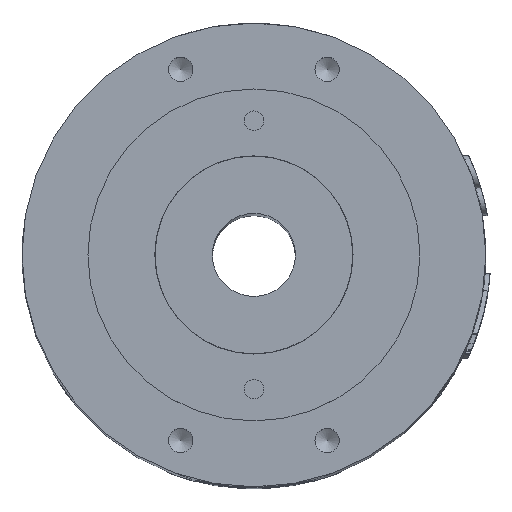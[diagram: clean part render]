
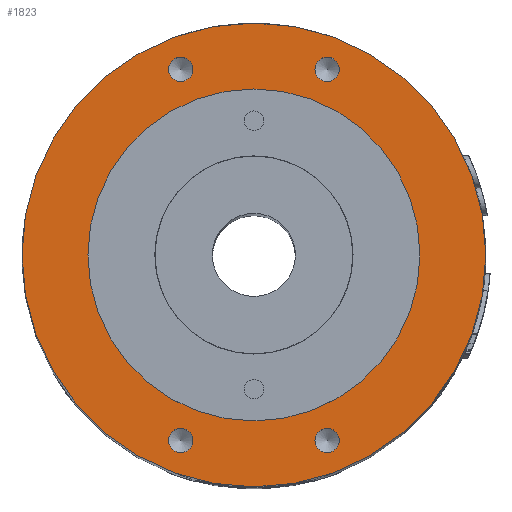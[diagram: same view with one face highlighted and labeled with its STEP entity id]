
A CAD part, top view. The second image highlights one B-rep face of the part: STEP entity #1823.
In plain terms, the highlighted planar face has unit normal (0, 0, 1).
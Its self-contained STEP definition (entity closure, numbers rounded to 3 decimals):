
#266=FACE_BOUND('',#3285,.T.);
#267=FACE_BOUND('',#3286,.T.);
#268=FACE_BOUND('',#3287,.T.);
#269=FACE_BOUND('',#3288,.T.);
#270=FACE_BOUND('',#3289,.T.);
#271=FACE_BOUND('',#3290,.T.);
#669=CIRCLE('',#9442,47.5);
#691=CIRCLE('',#9475,34.);
#693=CIRCLE('',#9478,2.5);
#694=CIRCLE('',#9479,2.5);
#695=CIRCLE('',#9480,2.5);
#696=CIRCLE('',#9481,2.5);
#1177=PLANE('',#9482);
#1823=ADVANCED_FACE('',(#266,#267,#268,#269,#270,#271),#1177,.T.);
#3285=EDGE_LOOP('',(#5107));
#3286=EDGE_LOOP('',(#5108));
#3287=EDGE_LOOP('',(#5109));
#3288=EDGE_LOOP('',(#5110));
#3289=EDGE_LOOP('',(#5111));
#3290=EDGE_LOOP('',(#5112));
#5107=ORIENTED_EDGE('',*,*,#8003,.T.);
#5108=ORIENTED_EDGE('',*,*,#8004,.T.);
#5109=ORIENTED_EDGE('',*,*,#8005,.T.);
#5110=ORIENTED_EDGE('',*,*,#8006,.T.);
#5111=ORIENTED_EDGE('',*,*,#8001,.T.);
#5112=ORIENTED_EDGE('',*,*,#7959,.F.);
#6823=VERTEX_POINT('',#26341);
#6865=VERTEX_POINT('',#26436);
#6867=VERTEX_POINT('',#26441);
#6868=VERTEX_POINT('',#26443);
#6869=VERTEX_POINT('',#26445);
#6870=VERTEX_POINT('',#26447);
#7959=EDGE_CURVE('',#6823,#6823,#669,.T.);
#8001=EDGE_CURVE('',#6865,#6865,#691,.T.);
#8003=EDGE_CURVE('',#6867,#6867,#693,.T.);
#8004=EDGE_CURVE('',#6868,#6868,#694,.T.);
#8005=EDGE_CURVE('',#6869,#6869,#695,.T.);
#8006=EDGE_CURVE('',#6870,#6870,#696,.T.);
#9442=AXIS2_PLACEMENT_3D('',#26340,#10791,#10792);
#9475=AXIS2_PLACEMENT_3D('',#26435,#10877,#10878);
#9478=AXIS2_PLACEMENT_3D('',#26440,#10883,#10884);
#9479=AXIS2_PLACEMENT_3D('',#26442,#10885,#10886);
#9480=AXIS2_PLACEMENT_3D('',#26444,#10887,#10888);
#9481=AXIS2_PLACEMENT_3D('',#26446,#10889,#10890);
#9482=AXIS2_PLACEMENT_3D('',#26448,#10891,#10892);
#10791=DIRECTION('',(0.,0.,-1.));
#10792=DIRECTION('',(1.,0.,0.));
#10877=DIRECTION('',(0.,0.,-1.));
#10878=DIRECTION('',(1.,0.,0.));
#10883=DIRECTION('',(0.,0.,-1.));
#10884=DIRECTION('',(1.,0.,0.));
#10885=DIRECTION('',(0.,0.,-1.));
#10886=DIRECTION('',(1.,0.,0.));
#10887=DIRECTION('',(0.,0.,-1.));
#10888=DIRECTION('',(1.,0.,0.));
#10889=DIRECTION('',(0.,0.,-1.));
#10890=DIRECTION('',(1.,0.,0.));
#10891=DIRECTION('',(0.,0.,1.));
#10892=DIRECTION('',(1.,0.,0.));
#26340=CARTESIAN_POINT('',(0.,0.,277.));
#26341=CARTESIAN_POINT('',(47.5,0.,277.));
#26435=CARTESIAN_POINT('',(0.,0.,277.));
#26436=CARTESIAN_POINT('',(34.,0.,277.));
#26440=CARTESIAN_POINT('',(15.,-38.,277.));
#26441=CARTESIAN_POINT('',(17.5,-38.,277.));
#26442=CARTESIAN_POINT('',(-15.,-38.,277.));
#26443=CARTESIAN_POINT('',(-12.5,-38.,277.));
#26444=CARTESIAN_POINT('',(-15.,38.,277.));
#26445=CARTESIAN_POINT('',(-12.5,38.,277.));
#26446=CARTESIAN_POINT('',(15.,38.,277.));
#26447=CARTESIAN_POINT('',(17.5,38.,277.));
#26448=CARTESIAN_POINT('',(0.,0.,277.));
